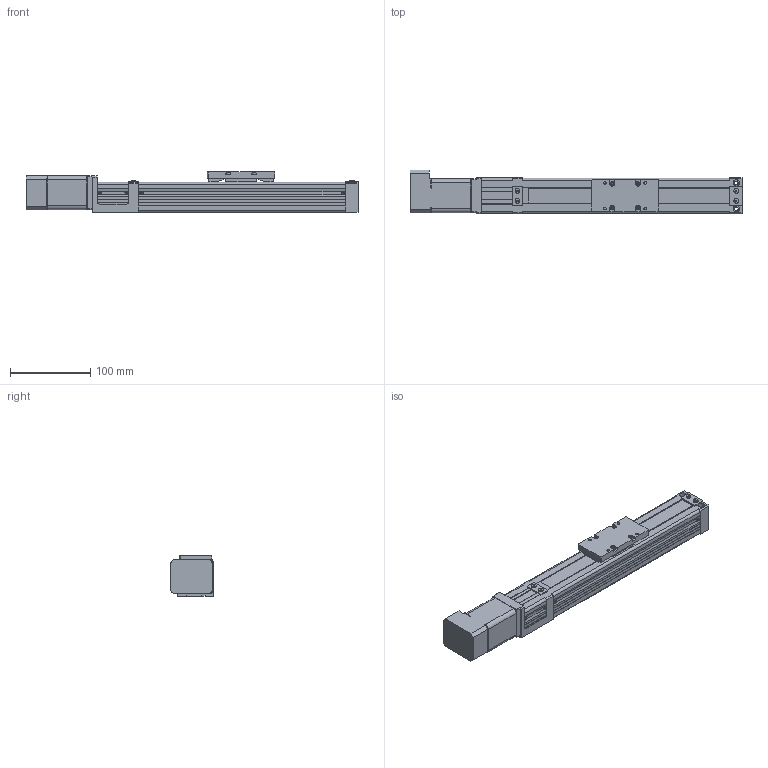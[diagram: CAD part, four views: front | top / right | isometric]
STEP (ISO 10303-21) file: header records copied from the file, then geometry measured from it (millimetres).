
FILE_DESCRIPTION((''),'2;1');
FILE_NAME('D:\製品 (図面)\カタログ用3D\SU部品\SU45×50\ダウンロード用\SU45×50-CM18\SU45×50-150-CM18.stp','2011-06-17T14:52:45',('Tsuchiya'),(''),'Autodesk Inventor 10','Autodesk Inventor 10','');
FILE_SCHEMA(('AUTOMOTIVE_DESIGN { 1 0 10303 214 1 1 1 1 }'));
Length unit declared in the file: millimetre
Products named in the file (4): SU45×50-150-CM18; SB45×50-150-MB42-1(1); SU45×50-T(1); マッスルモーター
Assembly tree (3 placements, depth 2):
  SU45×50-150-CM18
    SB45×50-150-MB42-1(1)
    SU45×50-T(1)
    マッスルモーター
Bounding box: 412.5 x 54.5 x 50 mm (x, y, z)
Volume: 394032.6 mm3; surface area: 159602.9 mm2
Topology: 3 solids, 3 shells, 730 faces, 1960 edges, 1287 vertices
Faces by surface type: plane 540, cylinder 99, bspline 55, torus 22, cone 14
Full cylindrical faces by diameter (mm): 2.459 x4, 3.242 x4, 3.4 x4, 4.5 x4, 5 x5, 6 x5, 7 x6, 8 x7, 10 x1, 20 x1, 22 x2, 30 x1
Entity records: 22532 total; most frequent: CARTESIAN_POINT 4928, ORIENTED_EDGE 3604, DIRECTION 3404, EDGE_CURVE 1802, VECTOR 1396, LINE 1396, VERTEX_POINT 1240, AXIS2_PLACEMENT_3D 1004
